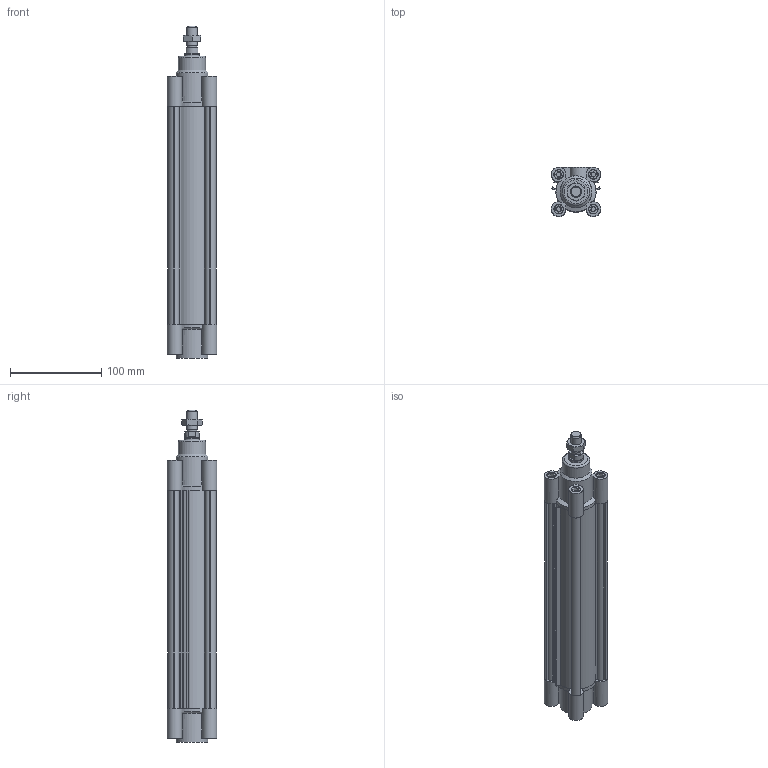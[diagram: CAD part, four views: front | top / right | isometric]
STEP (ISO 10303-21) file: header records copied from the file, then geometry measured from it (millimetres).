
FILE_DESCRIPTION((''),'2;1');
FILE_NAME('I:\Area Tecnica\Disegni\VARIE-3D\Componenti\ECOLIGHT\139#.##_0000_01\stp\139#_40_0200_01.iam.stp','2012-01-28T07:59:13',(''),(''),'Autodesk Inventor 2012','Autodesk Inventor 2012','');
FILE_SCHEMA(('AUTOMOTIVE_DESIGN { 1 0 10303 214 1 1 1 1 }'));
Length unit declared in the file: millimetre
Products named in the file (6): 139#_40_0200_01; CPL040_004-200; CPL040-001-01; CPL040-002-01; CPL_40_0200; 1320_40_18F
Assembly tree (5 placements, depth 2):
  139#_40_0200_01
    CPL040_004-200
    CPL040-001-01
    CPL040-002-01
    CPL_40_0200
    1320_40_18F
Bounding box: 54 x 54 x 364 mm (x, y, z)
Volume: 398457.8 mm3; surface area: 186619.2 mm2
Topology: 5 solids, 5 shells, 316 faces, 788 edges, 522 vertices
Faces by surface type: plane 200, cylinder 91, cone 24, torus 1
Full cylindrical faces by diameter (mm): 5 x8, 5.5 x4, 8 x2, 10 x8, 10.5 x9, 10.8 x1, 11.6 x2, 12 x1, 15.5 x1, 16 x2, 30 x1, 35 x2, 40 x4
Entity records: 9416 total; most frequent: CARTESIAN_POINT 1761, DIRECTION 1538, ORIENTED_EDGE 1442, EDGE_CURVE 721, AXIS2_PLACEMENT_3D 544, VERTEX_POINT 507, VECTOR 450, LINE 450
